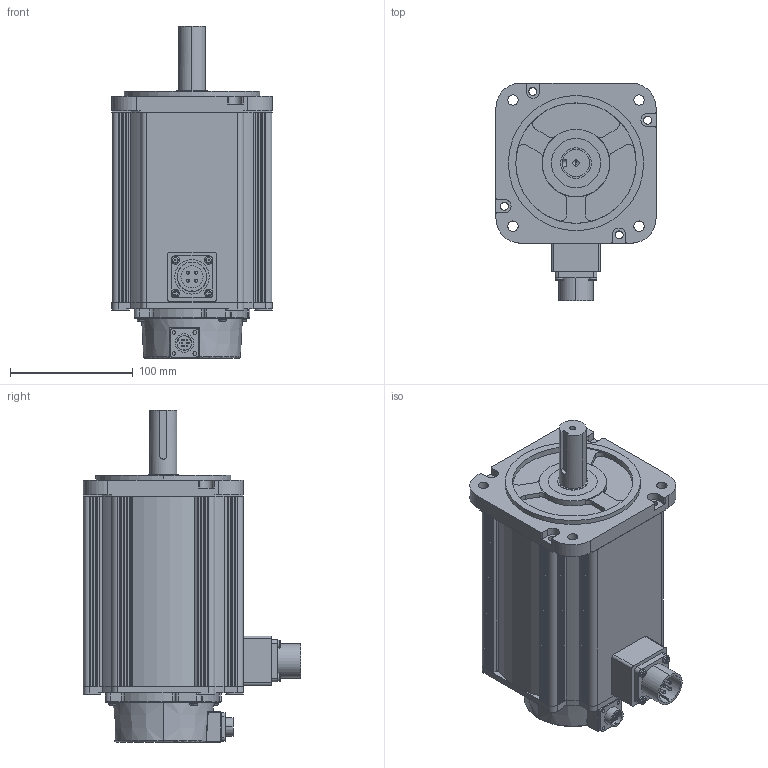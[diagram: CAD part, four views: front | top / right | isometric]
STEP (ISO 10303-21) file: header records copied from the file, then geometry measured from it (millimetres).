
FILE_DESCRIPTION (( 'STEP AP203' ), '1' );
FILE_NAME ('130E-14615.STEP', '2025-03-18T11:52:39', ( '' ), ( '' ), 'SwSTEP 2.0', 'SolidWorks 2020', '' );
FILE_SCHEMA (( 'CONFIG_CONTROL_DESIGN' ));
Length unit declared in the file: millimetre
Products named in the file (10): 130Aǰ; 130A綴裔潠謹; 130A諉盄釱-1; ｻ惞ﾇ-14.6N.M+25; 蚐猾; 堤粣; 18-10; SC-CMV1-R10P-E; 橈勤硉晤鎢ん誘欶  S13E.10-01; 130E-14615
Assembly tree (9 placements, depth 2):
  130E-14615
    130A綴裔潠謹
    130A諉盄釱-1
    130Aǰ
    堤粣
    蚐猾
    18-10
    SC-CMV1-R10P-E
    橈勤硉晤鎢ん誘欶  S13E.10-01
    ｻ惞ﾇ-14.6N.M+25
Bounding box: 130.2 x 176.9 x 270 mm (x, y, z)
Volume: 827581.3 mm3; surface area: 351953.9 mm2
Topology: 9 solids, 13 shells, 925 faces, 2474 edges, 1616 vertices
Faces by surface type: plane 520, cylinder 330, torus 45, sphere 12, cone 10, bspline 8
Entity records: 30852 total; most frequent: CARTESIAN_POINT 6072, DIRECTION 5044, ORIENTED_EDGE 4892, EDGE_CURVE 2446, AXIS2_PLACEMENT_3D 1710, VECTOR 1624, LINE 1624, VERTEX_POINT 1604
